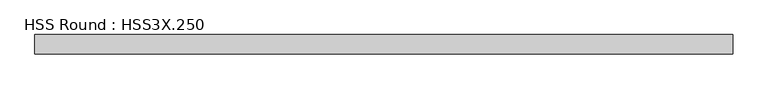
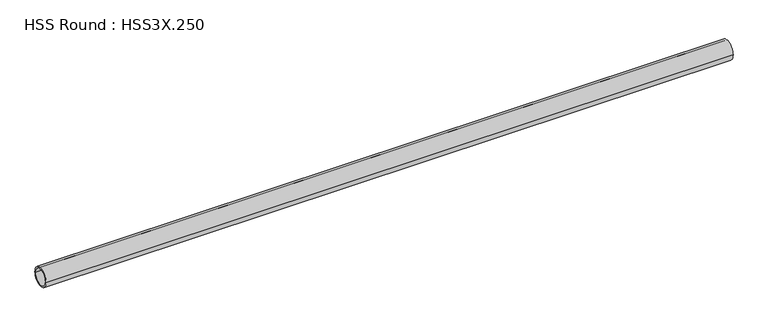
"""IFC4 building model written with IfcOpenShell, lengths in millimetres: member geometry, HSS Round : HSS3X.250."""

from ifc_helpers import new_model, si_unit, point, frame, origin, origin_2d, place, context, project, spatial, circle_curve, trimmed, segment, composite_curve, outline, extrude, source, transform, mapped, element, save


def hss_round_hss3x_250_d0182231(model_context):
    return source(origin(), model_context, "Body", "SweptSolid", [
        extrude(outline(composite_curve([segment(trimmed(circle_curve(origin_2d(), 38.1), [point((-38.1, 0.0))], [point((38.1, 0.0))], False, "CARTESIAN"), True, "CONTINUOUS"), segment(trimmed(circle_curve(origin_2d(), 38.1), [point((38.1, 0.0))], [point((-38.1, 0.0))], False, "CARTESIAN"), True, "CONTINUOUS")], self_intersect=False), holes=[composite_curve([segment(trimmed(circle_curve(origin_2d(), 31.75), [point((31.75, 0.0))], [point((-31.75, 0.0))], True, "CARTESIAN"), True, "CONTINUOUS"), segment(trimmed(circle_curve(origin_2d(), 31.75), [point((-31.75, 0.0))], [point((31.75, 0.0))], True, "CARTESIAN"), True, "CONTINUOUS")], self_intersect=False)]), frame((-1405.861673, 0.0, 0.0), z_axis=(1.0, 0.0, 0.0), x_axis=(0.0, 1.0, 0.0)), (0.0, 0.0, 1.0), 2728.8835402),
    ])


if __name__ == "__main__":
    model = new_model("IFC4")
    model_context = context("Model", 3, world=origin())
    ifc_project = project(units=[si_unit("LENGTHUNIT", "METRE", prefix="MILLI")], contexts=[model_context])
    site = spatial("IfcSite", under=ifc_project)
    building = spatial("IfcBuilding", under=site)
    placement = place(None, origin())
    hss_round_hss3x_250_shape = hss_round_hss3x_250_d0182231(model_context)
    element("IfcMember", 1, ObjectType="HSS Round : HSS3X.250", at=placement, inside=building, context=model_context, shape_type="MappedRepresentation", body=[
        mapped(hss_round_hss3x_250_shape, transform((0.0, 0.0, 0.0), x_axis=(1.0, 0.0, 0.0), y_axis=(0.0, 1.0, 0.0), z_axis=(0.0, 0.0, 1.0))),
    ])
    save(model, "model.ifc")
